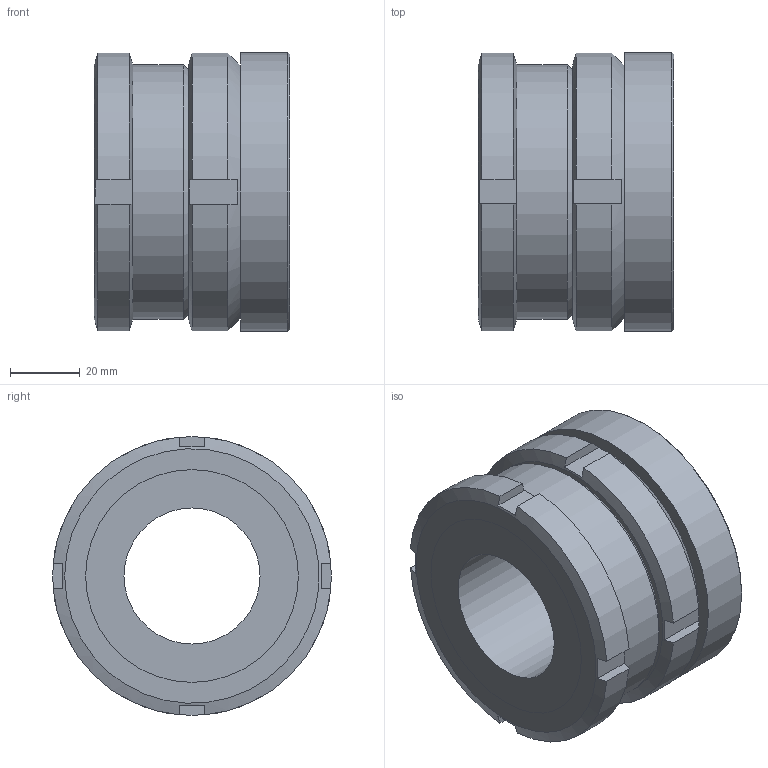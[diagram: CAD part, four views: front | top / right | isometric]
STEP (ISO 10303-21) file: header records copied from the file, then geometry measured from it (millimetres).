
FILE_DESCRIPTION( ( 'STEP AP203' ), '1' );
FILE_NAME( 'C:/Temp/Ganter_Step_05_03_2020/data/3_2/gn350_2/gn_350_2_st/Levelling set GN 350.2-80-39-56-ST (0-0).stp', '2020-03-13T05:28:02', ( 'License CC BY-ND 4.0' ), ( 'CADENAS' ), ' ', 'PARTsolutions', ' ' );
FILE_SCHEMA( ( 'CONFIG_CONTROL_DESIGN' ) );
Length unit declared in the file: millimetre
Products named in the file (4): Levelling set GN 350.2-80-39-56-ST (0-0); _Levelling set GN 350.2-80-39-56-ST-G; _Levelling set GN 350.2-80-39-56-ST-K; _Levelling set GN 350.2-80-39-56-ST-P(0)
Assembly tree (3 placements, depth 2):
  Levelling set GN 350.2-80-39-56-ST (0-0)
    _Levelling set GN 350.2-80-39-56-ST-G
    _Levelling set GN 350.2-80-39-56-ST-K
    _Levelling set GN 350.2-80-39-56-ST-P(0)
Bounding box: 56 x 80 x 80 mm (x, y, z)
Volume: 189849.9 mm3; surface area: 51441.9 mm2
Topology: 3 solids, 3 shells, 62 faces, 149 edges, 99 vertices
Faces by surface type: plane 36, cylinder 19, cone 5, sphere 2
Full cylindrical faces by diameter (mm): 39 x1, 48 x1, 53.529 x1, 54.5 x1, 57.835 x1, 60 x2, 61 x2, 73 x1, 80 x1
Entity records: 1925 total; most frequent: CARTESIAN_POINT 462, DIRECTION 276, ORIENTED_EDGE 248, EDGE_CURVE 124, AXIS2_PLACEMENT_3D 122, EDGE_LOOP 92, VERTEX_POINT 92, FACE_OUTER_BOUND 75
